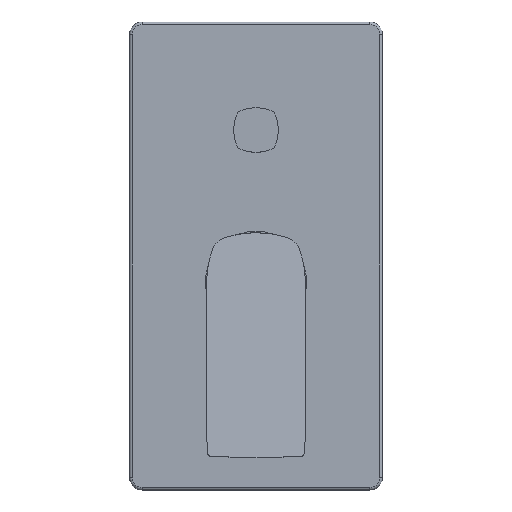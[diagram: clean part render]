
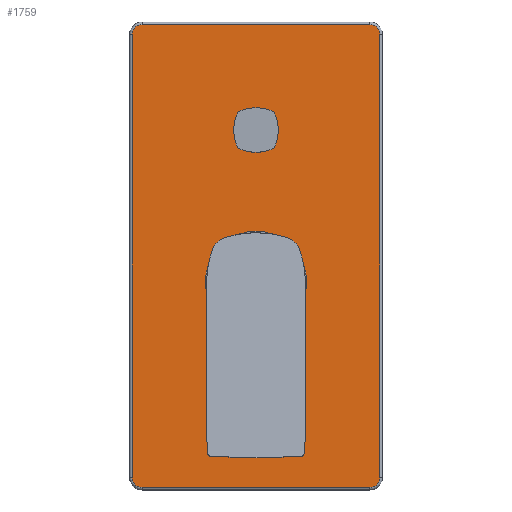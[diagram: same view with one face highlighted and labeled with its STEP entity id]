
A CAD part, top view. The second image highlights one B-rep face of the part: STEP entity #1759.
In plain terms, the highlighted planar face has unit normal (0, 0, 1).
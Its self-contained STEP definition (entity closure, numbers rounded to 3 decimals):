
#827 = VERTEX_POINT('',#828);
#828 = CARTESIAN_POINT('',(-20.,0.,
    5.));
#834 = EDGE_CURVE('',#827,#835,#837,.T.);
#835 = VERTEX_POINT('',#836);
#836 = CARTESIAN_POINT('',(20.,0.,
    5.));
#837 = CIRCLE('',#838,20.);
#838 = AXIS2_PLACEMENT_3D('',#839,#840,#841);
#839 = CARTESIAN_POINT('',(0.,0.,
    5.));
#840 = DIRECTION('',(0.,0.,1.));
#841 = DIRECTION('',(1.,0.,-0.));
#859 = EDGE_CURVE('',#835,#827,#860,.T.);
#860 = CIRCLE('',#861,20.);
#861 = AXIS2_PLACEMENT_3D('',#862,#863,#864);
#862 = CARTESIAN_POINT('',(0.,0.,
    5.));
#863 = DIRECTION('',(0.,0.,1.));
#864 = DIRECTION('',(1.,0.,-0.));
#938 = VERTEX_POINT('',#939);
#939 = CARTESIAN_POINT('',(0.,66.25,
    5.));
#945 = EDGE_CURVE('',#938,#946,#948,.T.);
#946 = VERTEX_POINT('',#947);
#947 = CARTESIAN_POINT('',(0.,53.75,
    5.));
#948 = CIRCLE('',#949,6.25);
#949 = AXIS2_PLACEMENT_3D('',#950,#951,#952);
#950 = CARTESIAN_POINT('',(0.,60.,
    5.));
#951 = DIRECTION('',(0.,0.,1.));
#952 = DIRECTION('',(0.,1.,0.));
#986 = EDGE_CURVE('',#946,#938,#987,.T.);
#987 = CIRCLE('',#988,6.25);
#988 = AXIS2_PLACEMENT_3D('',#989,#990,#991);
#989 = CARTESIAN_POINT('',(0.,60.,
    5.));
#990 = DIRECTION('',(0.,0.,1.));
#991 = DIRECTION('',(0.,1.,0.));
#1302 = VERTEX_POINT('',#1303);
#1303 = CARTESIAN_POINT('',(-45.,101.75,
    5.));
#1312 = EDGE_CURVE('',#1313,#1302,#1315,.T.);
#1313 = VERTEX_POINT('',#1314);
#1314 = CARTESIAN_POINT('',(-49.,97.75,
    5.));
#1315 = CIRCLE('',#1316,4.);
#1316 = AXIS2_PLACEMENT_3D('',#1317,#1318,#1319);
#1317 = CARTESIAN_POINT('',(-45.,97.75,
    5.));
#1318 = DIRECTION('',(0.,0.,-1.));
#1319 = DIRECTION('',(-1.,0.,-0.));
#1383 = EDGE_CURVE('',#1302,#1384,#1386,.T.);
#1384 = VERTEX_POINT('',#1385);
#1385 = CARTESIAN_POINT('',(45.,101.75,
    5.));
#1386 = LINE('',#1387,#1388);
#1387 = CARTESIAN_POINT('',(-45.,101.75,
    5.));
#1388 = VECTOR('',#1389,1.);
#1389 = DIRECTION('',(1.,0.,0.));
#1448 = VERTEX_POINT('',#1449);
#1449 = CARTESIAN_POINT('',(49.,97.75,
    5.));
#1456 = EDGE_CURVE('',#1384,#1448,#1457,.T.);
#1457 = CIRCLE('',#1458,4.);
#1458 = AXIS2_PLACEMENT_3D('',#1459,#1460,#1461);
#1459 = CARTESIAN_POINT('',(45.,97.75,
    5.));
#1460 = DIRECTION('',(0.,0.,-1.));
#1461 = DIRECTION('',(0.,1.,0.));
#1503 = EDGE_CURVE('',#1448,#1504,#1506,.T.);
#1504 = VERTEX_POINT('',#1505);
#1505 = CARTESIAN_POINT('',(49.,-77.25,5.));
#1506 = LINE('',#1507,#1508);
#1507 = CARTESIAN_POINT('',(49.,97.75,
    5.));
#1508 = VECTOR('',#1509,1.);
#1509 = DIRECTION('',(0.,-1.,0.));
#1568 = VERTEX_POINT('',#1569);
#1569 = CARTESIAN_POINT('',(45.,-81.25,5.));
#1576 = EDGE_CURVE('',#1504,#1568,#1577,.T.);
#1577 = CIRCLE('',#1578,4.);
#1578 = AXIS2_PLACEMENT_3D('',#1579,#1580,#1581);
#1579 = CARTESIAN_POINT('',(45.,-77.25,5.));
#1580 = DIRECTION('',(0.,0.,-1.));
#1581 = DIRECTION('',(1.,0.,0.));
#1623 = EDGE_CURVE('',#1568,#1624,#1626,.T.);
#1624 = VERTEX_POINT('',#1625);
#1625 = CARTESIAN_POINT('',(-45.,-81.25,5.));
#1626 = LINE('',#1627,#1628);
#1627 = CARTESIAN_POINT('',(45.,-81.25,5.));
#1628 = VECTOR('',#1629,1.);
#1629 = DIRECTION('',(-1.,0.,0.));
#1688 = VERTEX_POINT('',#1689);
#1689 = CARTESIAN_POINT('',(-49.,-77.25,5.));
#1696 = EDGE_CURVE('',#1624,#1688,#1697,.T.);
#1697 = CIRCLE('',#1698,4.);
#1698 = AXIS2_PLACEMENT_3D('',#1699,#1700,#1701);
#1699 = CARTESIAN_POINT('',(-45.,-77.25,5.));
#1700 = DIRECTION('',(0.,0.,-1.));
#1701 = DIRECTION('',(0.,-1.,0.));
#1759 = ADVANCED_FACE('',(#1760,#1775,#1779),#1783,.T.);
#1760 = FACE_BOUND('',#1761,.T.);
#1761 = EDGE_LOOP('',(#1762,#1763,#1769,#1770,#1771,#1772,#1773,#1774));
#1762 = ORIENTED_EDGE('',*,*,#1312,.F.);
#1763 = ORIENTED_EDGE('',*,*,#1764,.T.);
#1764 = EDGE_CURVE('',#1313,#1688,#1765,.T.);
#1765 = LINE('',#1766,#1767);
#1766 = CARTESIAN_POINT('',(-49.,-77.25,5.));
#1767 = VECTOR('',#1768,1.);
#1768 = DIRECTION('',(0.,-1.,0.));
#1769 = ORIENTED_EDGE('',*,*,#1696,.F.);
#1770 = ORIENTED_EDGE('',*,*,#1623,.F.);
#1771 = ORIENTED_EDGE('',*,*,#1576,.F.);
#1772 = ORIENTED_EDGE('',*,*,#1503,.F.);
#1773 = ORIENTED_EDGE('',*,*,#1456,.F.);
#1774 = ORIENTED_EDGE('',*,*,#1383,.F.);
#1775 = FACE_BOUND('',#1776,.T.);
#1776 = EDGE_LOOP('',(#1777,#1778));
#1777 = ORIENTED_EDGE('',*,*,#834,.F.);
#1778 = ORIENTED_EDGE('',*,*,#859,.F.);
#1779 = FACE_BOUND('',#1780,.T.);
#1780 = EDGE_LOOP('',(#1781,#1782));
#1781 = ORIENTED_EDGE('',*,*,#945,.F.);
#1782 = ORIENTED_EDGE('',*,*,#986,.F.);
#1783 = PLANE('',#1784);
#1784 = AXIS2_PLACEMENT_3D('',#1785,#1786,#1787);
#1785 = CARTESIAN_POINT('',(-47.,-77.25,5.));
#1786 = DIRECTION('',(0.,0.,1.));
#1787 = DIRECTION('',(0.,1.,0.));
